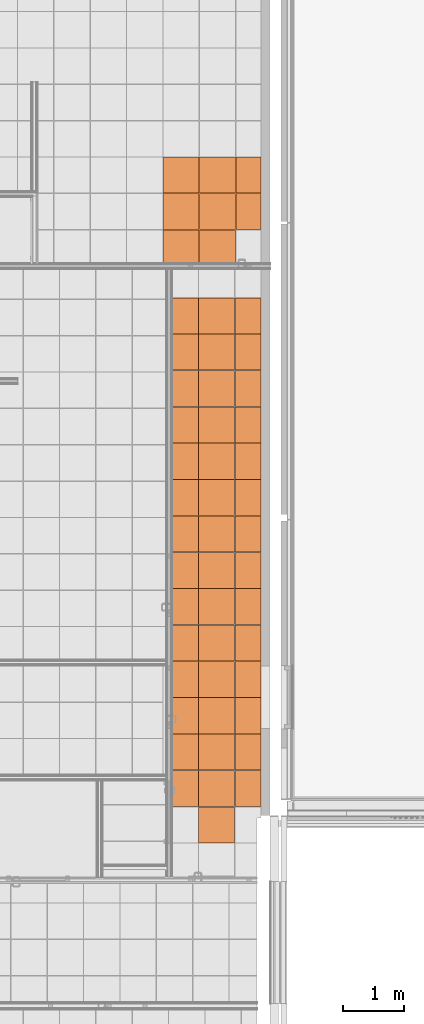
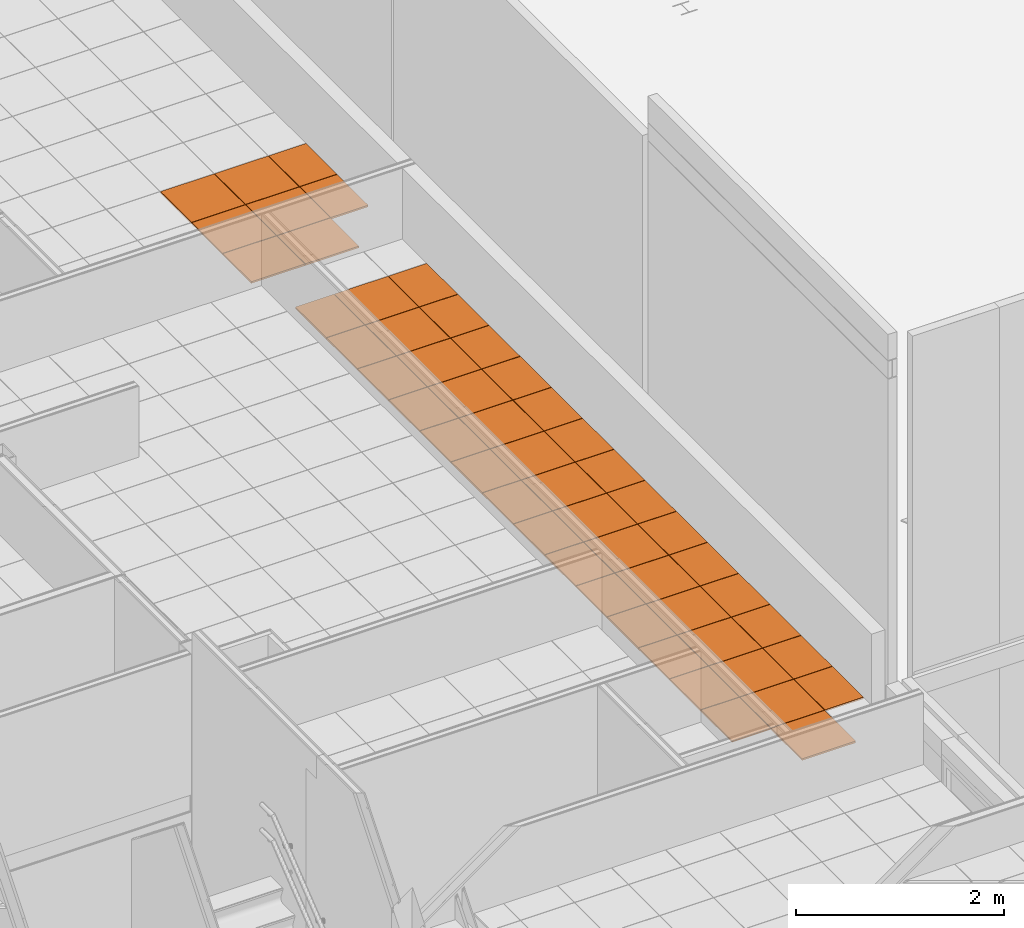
# One storey, part 296 of 338: 51 proxies, 2 elements without a shape of their own.
"""IFC2X3 building model written with IfcOpenShell, lengths in millimetres."""

import ifcopenshell
import ifcopenshell.guid

model = None  # the IFC model being written
_history = None  # IfcOwnerHistory: only IFC2X3 demands one
_inside = {}  # id of a spatial element -> (the spatial element, [elements in it])
_under = {}  # id of a project, library or spatial element -> (it, [spatial elements below it])
_declared = {}  # id of a project -> (the project, [libraries it declares])
_typed = {}  # id of a type object -> (the type object, [elements of that type])
_made_of = {}  # id of a material, layer set ... -> (it, [elements and type objects made of it])


def new_model(schema):
    """Start an empty IFC model of exactly this schema.

    Asked for "IFC4X3", IfcOpenShell would pick the latest addendum, in which some entities
    have other attributes; the version numbers below select the first issue.
    IFC2X3 requires an IfcOwnerHistory on every rooted entity: one is made here for all.
    """
    global model, _history
    if schema == "IFC4X3":
        model = ifcopenshell.file(schema_version=(4, 3, 0, 0))
    else:
        model = ifcopenshell.file(schema=schema)
    _inside.clear()
    _under.clear()
    _declared.clear()
    _typed.clear()
    _made_of.clear()
    _history = None
    if model.schema == "IFC2X3":
        org = make("IfcOrganization", Name="unknown")
        user = make(
            "IfcPersonAndOrganization",
            ThePerson=make("IfcPerson", FamilyName="unknown"),
            TheOrganization=org,
        )
        app = make(
            "IfcApplication",
            ApplicationDeveloper=org,
            Version="unknown",
            ApplicationFullName="unknown",
            ApplicationIdentifier="unknown",
        )
        _history = make(
            "IfcOwnerHistory",
            OwningUser=user,
            OwningApplication=app,
            ChangeAction="ADDED",
            CreationDate=0,
        )
    return model


def make(cls, **values):
    """One entity of the class cls with the attributes given. An attribute that is None is left unset."""
    return model.create_entity(
        cls, **{name: value for name, value in values.items() if value is not None}
    )


def entity(cls, *values):
    """Any entity or typed value of the class cls, its attributes in the order of the schema. None: left unset."""
    e = model.create_entity(cls)
    for i, value in enumerate(values):
        if value is not None:
            e[i] = value
    return e


def rooted(cls, **values):
    """An entity with a GlobalId (a new one), such as an element, a storey or a relation."""
    return make(cls, GlobalId=ifcopenshell.guid.new(), OwnerHistory=_history, **values)


def si_unit(unit_type, name, prefix=None):
    """IfcSIUnit, for example si_unit("LENGTHUNIT", "METRE", prefix="MILLI")."""
    return make("IfcSIUnit", UnitType=unit_type, Prefix=prefix, Name=name)


def converted_unit(unit_type, name, factor, base, dimensions=None, offset=None):
    """IfcConversionBasedUnit, such as the inch: factor (a typed value) times the base unit."""
    return make(
        "IfcConversionBasedUnit"
        if offset is None
        else "IfcConversionBasedUnitWithOffset",
        ConversionOffset=offset,
        Dimensions=None
        if dimensions is None
        else entity("IfcDimensionalExponents", *dimensions),
        UnitType=unit_type,
        Name=name,
        ConversionFactor=make(
            "IfcMeasureWithUnit", ValueComponent=factor, UnitComponent=base
        ),
    )


def derived_unit(unit_type, elements):
    """IfcDerivedUnit: a product of units, each with its exponent."""
    return make(
        "IfcDerivedUnit",
        Elements=[
            make("IfcDerivedUnitElement", Unit=unit, Exponent=power)
            for unit, power in elements
        ],
        UnitType=unit_type,
    )


def money_unit(currency):
    """IfcMonetaryUnit."""
    return make("IfcMonetaryUnit", Currency=currency)


def assignment(units):
    """IfcUnitAssignment: the units of a project."""
    return None if units is None else make("IfcUnitAssignment", Units=units)


def point(xyz):
    """IfcCartesianPoint."""
    return None if xyz is None else make("IfcCartesianPoint", Coordinates=xyz)


def direction(xyz):
    """IfcDirection."""
    return None if xyz is None else make("IfcDirection", DirectionRatios=xyz)


def frame(location, z_axis=None, x_axis=None):
    """IfcAxis2Placement3D, a coordinate frame: its origin and axes. An axis left out is left unset."""
    return make(
        "IfcAxis2Placement3D",
        Location=point(location),
        Axis=direction(z_axis),
        RefDirection=direction(x_axis),
    )


def origin_with_axes():
    """The frame at (0, 0, 0) with the z axis (0, 0, 1) and the x axis (1, 0, 0) written out."""
    return frame((0.0, 0.0, 0.0), z_axis=(0.0, 0.0, 1.0), x_axis=(1.0, 0.0, 0.0))


def place(relative_to, where):
    """IfcLocalPlacement: puts the frame where relative to a parent placement (None: the world)."""
    return make(
        "IfcLocalPlacement", PlacementRelTo=relative_to, RelativePlacement=where
    )


def context(
    kind, dimensions, precision=None, world=None, true_north=None, identifier=None
):
    """IfcGeometricRepresentationContext, for example the 3D "Model" context."""
    return make(
        "IfcGeometricRepresentationContext",
        ContextIdentifier=identifier,
        ContextType=kind,
        CoordinateSpaceDimension=dimensions,
        Precision=precision,
        WorldCoordinateSystem=world,
        TrueNorth=true_north,
    )


def subcontext(parent, identifier, kind, view, scale=None):
    """IfcGeometricRepresentationSubContext, for example "Body" below "Model"."""
    return make(
        "IfcGeometricRepresentationSubContext",
        ContextIdentifier=identifier,
        ContextType=kind,
        ParentContext=parent,
        TargetScale=scale,
        TargetView=view,
    )


def project(units=None, contexts=None):
    """IfcProject with its units and contexts."""
    return rooted(
        "IfcProject",
        Name="project",
        RepresentationContexts=contexts,
        UnitsInContext=assignment(units),
    )


def spatial(cls, under=None, at=None, **own):
    """A site, building, storey or space (cls), placed at a placement, below another one or the project."""
    s = rooted(cls, ObjectPlacement=at, **own)
    if under is not None:
        _under.setdefault(under.id(), (under, []))[1].append(s)
    return s


def faces_of(points, faces, orient=None, outer=None):
    """IfcFace entities. A face is a list of loops; a loop is a list of indices into points, from 0.

    orient and outer hold one flag for each loop. By default every Orientation is true, the
    first loop of a face is its IfcFaceOuterBound and the others are IfcFaceBound.
    """
    made = []
    for i, loops in enumerate(faces):
        bounds = []
        for j, loop in enumerate(loops):
            is_outer = j == 0 if outer is None else outer[i][j]
            bounds.append(
                make(
                    "IfcFaceOuterBound" if is_outer else "IfcFaceBound",
                    Bound=make("IfcPolyLoop", Polygon=[points[k] for k in loop]),
                    Orientation=True if orient is None else orient[i][j],
                )
            )
        made.append(make("IfcFace", Bounds=bounds))
    return made


def faceted_brep(points, faces, orient=None, outer=None, voids=None):
    """IfcFacetedBrep: a solid bounded by flat faces; with voids (closed shells), ...WithVoids."""
    shared = [point(p) for p in points]
    hull = make("IfcClosedShell", CfsFaces=faces_of(shared, faces, orient, outer))
    if voids is None:
        return make("IfcFacetedBrep", Outer=hull)
    return make(
        "IfcFacetedBrepWithVoids",
        Outer=hull,
        Voids=[
            make(cls, CfsFaces=faces_of(shared, fs, o, b)) for cls, fs, o, b in voids
        ],
    )


def shape(context_of_items, identifier, shape_type, items):
    """IfcShapeRepresentation: the items that make up one representation, for example the "Body"."""
    return make(
        "IfcShapeRepresentation",
        ContextOfItems=context_of_items,
        RepresentationIdentifier=identifier,
        RepresentationType=shape_type,
        Items=items,
    )


def source(mapping_origin, context_of_items, identifier, shape_type, items):
    """IfcRepresentationMap: a shape defined once, which mapped items show again and again."""
    return make(
        "IfcRepresentationMap",
        MappingOrigin=mapping_origin,
        MappedRepresentation=shape(context_of_items, identifier, shape_type, items),
    )


def transform(
    local_origin,
    x_axis=None,
    y_axis=None,
    z_axis=None,
    scale=None,
    scale2=None,
    scale3=None,
    uniform=True,
):
    """IfcCartesianTransformationOperator3D, or its non-uniform kind. x_axis, y_axis, z_axis: its Axis1, 2, 3."""
    if uniform:
        return make(
            "IfcCartesianTransformationOperator3D",
            Axis1=direction(x_axis),
            Axis2=direction(y_axis),
            LocalOrigin=point(local_origin),
            Scale=scale,
            Axis3=direction(z_axis),
        )
    return make(
        "IfcCartesianTransformationOperator3DnonUniform",
        Axis1=direction(x_axis),
        Axis2=direction(y_axis),
        LocalOrigin=point(local_origin),
        Scale=scale,
        Axis3=direction(z_axis),
        Scale2=scale2,
        Scale3=scale3,
    )


def mapped(mapping_source, mapping_target):
    """IfcMappedItem: shows the shape of a source again, moved by a transform."""
    return make(
        "IfcMappedItem", MappingSource=mapping_source, MappingTarget=mapping_target
    )


def material(Name=None, Category=None):
    """IfcMaterial."""
    return make("IfcMaterial", Name=Name, Category=Category)


def made_of(thing, what):
    """Note that an element or type object is made of a material, layer set ...; save() writes the relation."""
    if what is not None:
        _made_of.setdefault(what.id(), (what, []))[1].append(thing)
    return thing


def type_object(cls, material=None, **own):
    """A type object (cls), such as IfcWallType, which elements share."""
    return made_of(rooted(cls, **own), material)


def type_shapes(of_type, sources):
    """Give a type object the sources (RepresentationMaps) that its elements show as mapped items."""
    of_type.RepresentationMaps = sources


def element(
    cls,
    number,
    at=None,
    inside=None,
    cuts=None,
    type_object=None,
    material=None,
    context=None,
    identifier="Body",
    shape_type=None,
    held_by="IfcProductDefinitionShape",
    body=None,
    shapes=None,
    **own,
):
    """One element of the class cls, such as IfcWall. Its Tag is "e" and its number.

    at: its placement. inside: the storey or other place that contains it. cuts: it is an
    opening in that element (IfcRelVoidsElement). A single representation is given by context,
    identifier, shape_type and body (its items); several are given by shapes. held_by: the class
    of the entity that holds the representations. save() writes the other relations.
    """
    e = rooted(cls, Tag="e%d" % number, ObjectPlacement=at, **own)
    if body is not None:
        shapes = [shape(context, identifier, shape_type, body)]
    if shapes is not None:
        e.Representation = make(held_by, Representations=shapes)
    if inside is not None:
        _inside.setdefault(inside.id(), (inside, []))[1].append(e)
    if cuts is not None:
        rooted(
            "IfcRelVoidsElement", RelatingBuildingElement=cuts, RelatedOpeningElement=e
        )
    if type_object is not None:
        _typed.setdefault(type_object.id(), (type_object, []))[1].append(e)
    return made_of(e, material)


def aggregate(whole, parts):
    """IfcRelAggregates: a whole, such as a stair, and the parts it consists of."""
    return rooted("IfcRelAggregates", RelatingObject=whole, RelatedObjects=parts)


def save(model, path):
    """Write the relations noted so far, then the file.

    IfcRelAggregates (storeys below a building ...), IfcRelContainedInSpatialStructure (elements
    in a storey), IfcRelDefinesByType, IfcRelAssociatesMaterial and IfcRelDeclares: one each for
    every whole, place, type object, material and project.
    """
    for whole, parts in _under.values():
        aggregate(whole, parts)
    for where, things in _inside.values():
        rooted(
            "IfcRelContainedInSpatialStructure",
            RelatedElements=things,
            RelatingStructure=where,
        )
    for kind, things in _typed.values():
        rooted("IfcRelDefinesByType", RelatedObjects=things, RelatingType=kind)
    for what, things in _made_of.values():
        rooted("IfcRelAssociatesMaterial", RelatedObjects=things, RelatingMaterial=what)
    for by, libraries in _declared.values():
        rooted("IfcRelDeclares", RelatingContext=by, RelatedDefinitions=libraries)
    model.write(path)


model = new_model("IFC2X3")

# Units and contexts
model_context = context("Model", 3, precision=0.01, world=origin_with_axes(), true_north=direction((0.0, 1.0)))
plan_context = context("Plan", 3, precision=0.01, world=origin_with_axes(), true_north=direction((0.0, 1.0)))
body_context = subcontext(model_context, "Body", "Model", "MODEL_VIEW")
ifc_project = project(units=[si_unit("LENGTHUNIT", "METRE", prefix="MILLI"), si_unit("AREAUNIT", "SQUARE_METRE"), si_unit("VOLUMEUNIT", "CUBIC_METRE"), converted_unit("PLANEANGLEUNIT", "DEGREE", entity("IfcPlaneAngleMeasure", 0.0174532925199), si_unit("PLANEANGLEUNIT", "RADIAN"), dimensions=[0, 0, 0, 0, 0, 0, 0]), money_unit("EUR"), converted_unit("TIMEUNIT", "Year", entity("IfcTimeMeasure", 31556926.0), si_unit("TIMEUNIT", "SECOND"), dimensions=[0, 0, 1, 0, 0, 0, 0]), si_unit("MASSUNIT", "GRAM", prefix="KILO"), si_unit("THERMODYNAMICTEMPERATUREUNIT", "DEGREE_CELSIUS"), si_unit("LUMINOUSINTENSITYUNIT", "LUMEN"), si_unit("ENERGYUNIT", "JOULE", prefix="MEGA"), derived_unit("THERMALCONDUCTANCEUNIT", [(si_unit("POWERUNIT", "WATT"), 1), (si_unit("LENGTHUNIT", "METRE"), -1), (si_unit("THERMODYNAMICTEMPERATUREUNIT", "KELVIN"), -1)]), derived_unit("SPECIFICHEATCAPACITYUNIT", [(si_unit("ENERGYUNIT", "JOULE"), 1), (si_unit("MASSUNIT", "GRAM", prefix="KILO"), -1), (si_unit("THERMODYNAMICTEMPERATUREUNIT", "KELVIN"), -1)]), derived_unit("MASSDENSITYUNIT", [(si_unit("MASSUNIT", "GRAM", prefix="KILO"), 1), (si_unit("VOLUMEUNIT", "CUBIC_METRE"), -1)])], contexts=[model_context, plan_context])

# Site, building, storey
site_placement = place(None, origin_with_axes())
site = spatial("IfcSite", under=ifc_project, at=site_placement, Name="Fortuinstraat Woensdrecht", CompositionType="ELEMENT")
building_placement = place(site_placement, origin_with_axes())
building = spatial("IfcBuilding", under=site, at=building_placement, Name="IKC Fortuna", CompositionType="ELEMENT")
storey_placement = place(building_placement, origin_with_axes())
storey = spatial("IfcBuildingStorey", under=building, at=storey_placement, Name="00 begane grond", CompositionType="ELEMENT", Elevation=0.0)

# Covering, proxies
covering_type = type_object("IfcCoveringType", Name="Curtain Wall Type", PredefinedType="CEILING")
covering_1_placement = place(storey_placement, frame((33951.5455551, 20180.4597436, 2810.0), z_axis=(0.0, 0.0, 1.0), x_axis=(1.0, 0.0, 0.0)))
covering_1 = element("IfcCovering", 1, at=covering_1_placement, inside=storey, type_object=covering_type, Name="45_Plafondafwerking_P02", PredefinedType="CEILING")
ifc_material = material(Name="Gipsplaat")
building_element_proxy_type_1 = type_object("IfcBuildingElementProxyType", Name="Distinct Panel 600 x 600 x 20", PredefinedType="NOTDEFINED")
shared_shape_1 = source(origin_with_axes(), body_context, "Body", "Brep", [
    faceted_brep([(-2.49999999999, 2.5, -10.0), (-2.49999999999, 2.5, 10.0), (-597.5, 2.49999999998, 10.0), (-597.5, 2.49999999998, -10.0), (-2.50000000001, 597.5, -10.0), (-2.50000000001, 597.5, 10.0), (-597.5, 597.5, 10.0), (-597.5, 597.5, -10.0)], [[[0, 1, 2, 3]], [[4, 5, 1, 0]], [[1, 5, 6, 2]], [[3, 2, 6, 7]], [[0, 3, 7, 4]], [[7, 6, 5, 4]]]),
])
type_shapes(building_element_proxy_type_1, [shared_shape_1])
proxy_1_placement = place(covering_1_placement, frame((2.20268248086e-10, 8980.66312626, 0.0), z_axis=(0.0, 0.0, 1.0), x_axis=(1.0, 0.0, 0.0)))
proxy_1 = element("IfcBuildingElementProxy", 2, at=proxy_1_placement, type_object=building_element_proxy_type_1, material=ifc_material, Name="__Panel-D", context=body_context, shape_type="MappedRepresentation", body=[
    mapped(shared_shape_1, transform((-300.0, 300.0, 0.0), x_axis=(-1.0, 0.0, 0.0), y_axis=(0.0, -1.0, 0.0), z_axis=(0.0, 0.0, 1.0))),
])
proxy_2_placement = place(covering_1_placement, frame((2.0605739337e-10, 8380.66312626, 0.0), z_axis=(0.0, 0.0, 1.0), x_axis=(1.0, 0.0, 0.0)))
proxy_2 = element("IfcBuildingElementProxy", 3, at=proxy_2_placement, type_object=building_element_proxy_type_1, material=ifc_material, Name="__Panel-D", context=body_context, shape_type="MappedRepresentation", body=[
    mapped(shared_shape_1, transform((-300.0, 300.0, 0.0), x_axis=(-1.0, 0.0, 0.0), y_axis=(0.0, -1.0, 0.0), z_axis=(0.0, 0.0, 1.0))),
])
proxy_3_placement = place(covering_1_placement, frame((1.91846538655e-10, 7780.66312626, 0.0), z_axis=(0.0, 0.0, 1.0), x_axis=(1.0, 0.0, 0.0)))
proxy_3 = element("IfcBuildingElementProxy", 4, at=proxy_3_placement, type_object=building_element_proxy_type_1, material=ifc_material, Name="__Panel-D", context=body_context, shape_type="MappedRepresentation", body=[
    mapped(shared_shape_1, transform((-300.0, 300.0, 0.0), x_axis=(-1.0, 0.0, 0.0), y_axis=(0.0, -1.0, 0.0), z_axis=(0.0, 0.0, 1.0))),
])
proxy_4_placement = place(covering_1_placement, frame((1.7763568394e-10, 7180.66312626, 0.0), z_axis=(0.0, 0.0, 1.0), x_axis=(1.0, 0.0, 0.0)))
proxy_4 = element("IfcBuildingElementProxy", 5, at=proxy_4_placement, type_object=building_element_proxy_type_1, material=ifc_material, Name="__Panel-D", context=body_context, shape_type="MappedRepresentation", body=[
    mapped(shared_shape_1, transform((-300.0, 300.0, 0.0), x_axis=(-1.0, 0.0, 0.0), y_axis=(0.0, -1.0, 0.0), z_axis=(0.0, 0.0, 1.0))),
])
proxy_5_placement = place(covering_1_placement, frame((1.63424829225e-10, 6580.66312626, 0.0), z_axis=(0.0, 0.0, 1.0), x_axis=(1.0, 0.0, 0.0)))
proxy_5 = element("IfcBuildingElementProxy", 6, at=proxy_5_placement, type_object=building_element_proxy_type_1, material=ifc_material, Name="__Panel-D", context=body_context, shape_type="MappedRepresentation", body=[
    mapped(shared_shape_1, transform((-300.0, 300.0, 0.0), x_axis=(-1.0, 0.0, 0.0), y_axis=(0.0, -1.0, 0.0), z_axis=(0.0, 0.0, 1.0))),
])
proxy_6_placement = place(covering_1_placement, frame((1.4921397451e-10, 5980.66312626, 0.0), z_axis=(0.0, 0.0, 1.0), x_axis=(1.0, 0.0, 0.0)))
proxy_6 = element("IfcBuildingElementProxy", 7, at=proxy_6_placement, type_object=building_element_proxy_type_1, material=ifc_material, Name="__Panel-D", context=body_context, shape_type="MappedRepresentation", body=[
    mapped(shared_shape_1, transform((-300.0, 300.0, 0.0), x_axis=(-1.0, 0.0, 0.0), y_axis=(0.0, -1.0, 0.0), z_axis=(0.0, 0.0, 1.0))),
])
proxy_7_placement = place(covering_1_placement, frame((1.35003119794e-10, 5380.66312626, 0.0), z_axis=(0.0, 0.0, 1.0), x_axis=(1.0, 0.0, 0.0)))
proxy_7 = element("IfcBuildingElementProxy", 8, at=proxy_7_placement, type_object=building_element_proxy_type_1, material=ifc_material, Name="__Panel-D", context=body_context, shape_type="MappedRepresentation", body=[
    mapped(shared_shape_1, transform((-300.0, 300.0, 0.0), x_axis=(-1.0, 0.0, 0.0), y_axis=(0.0, -1.0, 0.0), z_axis=(0.0, 0.0, 1.0))),
])
proxy_8_placement = place(covering_1_placement, frame((1.20792265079e-10, 4780.66312626, 0.0), z_axis=(0.0, 0.0, 1.0), x_axis=(1.0, 0.0, 0.0)))
proxy_8 = element("IfcBuildingElementProxy", 9, at=proxy_8_placement, type_object=building_element_proxy_type_1, material=ifc_material, Name="__Panel-D", context=body_context, shape_type="MappedRepresentation", body=[
    mapped(shared_shape_1, transform((-300.0, 300.0, 0.0), x_axis=(-1.0, 0.0, 0.0), y_axis=(0.0, -1.0, 0.0), z_axis=(0.0, 0.0, 1.0))),
])
proxy_9_placement = place(covering_1_placement, frame((1.06581410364e-10, 4180.66312626, 0.0), z_axis=(0.0, 0.0, 1.0), x_axis=(1.0, 0.0, 0.0)))
proxy_9 = element("IfcBuildingElementProxy", 10, at=proxy_9_placement, type_object=building_element_proxy_type_1, material=ifc_material, Name="__Panel-D", context=body_context, shape_type="MappedRepresentation", body=[
    mapped(shared_shape_1, transform((-300.0, 300.0, 0.0), x_axis=(-1.0, 0.0, 0.0), y_axis=(0.0, -1.0, 0.0), z_axis=(0.0, 0.0, 1.0))),
])
proxy_10_placement = place(covering_1_placement, frame((0.0, 3580.66312626, 0.0), z_axis=(0.0, 0.0, 1.0), x_axis=(1.0, 0.0, 0.0)))
proxy_10 = element("IfcBuildingElementProxy", 11, at=proxy_10_placement, type_object=building_element_proxy_type_1, material=ifc_material, Name="__Panel-D", context=body_context, shape_type="MappedRepresentation", body=[
    mapped(shared_shape_1, transform((-300.0, 300.0, 0.0), x_axis=(-1.0, 0.0, 0.0), y_axis=(0.0, -1.0, 0.0), z_axis=(0.0, 0.0, 1.0))),
])
proxy_11_placement = place(covering_1_placement, frame((0.0, 2980.66312626, 0.0), z_axis=(0.0, 0.0, 1.0), x_axis=(1.0, 0.0, 0.0)))
proxy_11 = element("IfcBuildingElementProxy", 12, at=proxy_11_placement, type_object=building_element_proxy_type_1, material=ifc_material, Name="__Panel-D", context=body_context, shape_type="MappedRepresentation", body=[
    mapped(shared_shape_1, transform((-300.0, 300.0, 0.0), x_axis=(-1.0, 0.0, 0.0), y_axis=(0.0, -1.0, 0.0), z_axis=(0.0, 0.0, 1.0))),
])
proxy_12_placement = place(covering_1_placement, frame((0.0, 2380.66312626, 0.0), z_axis=(0.0, 0.0, 1.0), x_axis=(1.0, 0.0, 0.0)))
proxy_12 = element("IfcBuildingElementProxy", 13, at=proxy_12_placement, type_object=building_element_proxy_type_1, material=ifc_material, Name="__Panel-D", context=body_context, shape_type="MappedRepresentation", body=[
    mapped(shared_shape_1, transform((-300.0, 300.0, 0.0), x_axis=(-1.0, 0.0, 0.0), y_axis=(0.0, -1.0, 0.0), z_axis=(0.0, 0.0, 1.0))),
])
proxy_13_placement = place(covering_1_placement, frame((0.0, 1780.66312626, 0.0), z_axis=(0.0, 0.0, 1.0), x_axis=(1.0, 0.0, 0.0)))
proxy_13 = element("IfcBuildingElementProxy", 14, at=proxy_13_placement, type_object=building_element_proxy_type_1, material=ifc_material, Name="__Panel-D", context=body_context, shape_type="MappedRepresentation", body=[
    mapped(shared_shape_1, transform((-300.0, 300.0, 0.0), x_axis=(-1.0, 0.0, 0.0), y_axis=(0.0, -1.0, 0.0), z_axis=(0.0, 0.0, 1.0))),
])
proxy_14_placement = place(covering_1_placement, frame((0.0, 1180.66312626, 0.0), z_axis=(0.0, 0.0, 1.0), x_axis=(1.0, 0.0, 0.0)))
proxy_14 = element("IfcBuildingElementProxy", 15, at=proxy_14_placement, type_object=building_element_proxy_type_1, material=ifc_material, Name="__Panel-D", context=body_context, shape_type="MappedRepresentation", body=[
    mapped(shared_shape_1, transform((-300.0, 300.0, 0.0), x_axis=(-1.0, 0.0, 0.0), y_axis=(0.0, -1.0, 0.0), z_axis=(0.0, 0.0, 1.0))),
])
proxy_15_placement = place(covering_1_placement, frame((0.0, 580.66312626, 0.0), z_axis=(0.0, 0.0, 1.0), x_axis=(1.0, 0.0, 0.0)))
proxy_15 = element("IfcBuildingElementProxy", 16, at=proxy_15_placement, type_object=building_element_proxy_type_1, material=ifc_material, Name="__Panel-D", context=body_context, shape_type="MappedRepresentation", body=[
    mapped(shared_shape_1, transform((-300.0, 300.0, 0.0), x_axis=(-1.0, 0.0, 0.0), y_axis=(0.0, -1.0, 0.0), z_axis=(0.0, 0.0, 1.0))),
])

covering_2_placement = place(storey_placement, frame((34473.6590305, 30882.3889696, 2810.0), z_axis=(0.0, 0.0, 1.0), x_axis=(1.0, 0.0, 0.0)))
covering_2 = element("IfcCovering", 17, at=covering_2_placement, inside=storey, type_object=covering_type, Name="45_Plafondafwerking_P02 v", PredefinedType="CEILING")
proxy_16_placement = place(covering_2_placement, frame((-509.768002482, 0.0, 1.63868918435e-10), z_axis=(0.0, 0.0, 1.0), x_axis=(1.0, 0.0, 0.0)))
proxy_16 = element("IfcBuildingElementProxy", 18, at=proxy_16_placement, type_object=building_element_proxy_type_1, material=ifc_material, Name="__Panel-D", context=body_context, shape_type="MappedRepresentation", body=[
    mapped(shared_shape_1, transform((-300.0, 300.0, 0.0), x_axis=(-1.0, 0.0, 0.0), y_axis=(0.0, -1.0, 0.0), z_axis=(0.0, 0.0, 1.0))),
])
proxy_17_placement = place(covering_2_placement, frame((-509.768002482, 600.0, 1.63868918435e-10), z_axis=(0.0, 0.0, 1.0), x_axis=(1.0, 0.0, 0.0)))
proxy_17 = element("IfcBuildingElementProxy", 19, at=proxy_17_placement, type_object=building_element_proxy_type_1, material=ifc_material, Name="__Panel-D", context=body_context, shape_type="MappedRepresentation", body=[
    mapped(shared_shape_1, transform((-300.0, 300.0, 0.0), x_axis=(-1.0, 0.0, 0.0), y_axis=(0.0, -1.0, 0.0), z_axis=(0.0, 0.0, 1.0))),
])
proxy_18_placement = place(covering_2_placement, frame((-1109.76800248, 0.0, 1.43884903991e-10), z_axis=(0.0, 0.0, 1.0), x_axis=(1.0, 0.0, 0.0)))
proxy_18 = element("IfcBuildingElementProxy", 20, at=proxy_18_placement, type_object=building_element_proxy_type_1, material=ifc_material, Name="__Panel-D", context=body_context, shape_type="MappedRepresentation", body=[
    mapped(shared_shape_1, transform((-300.0, 300.0, 0.0), x_axis=(-1.0, 0.0, 0.0), y_axis=(0.0, -1.0, 0.0), z_axis=(0.0, 0.0, 1.0))),
])
proxy_19_placement = place(covering_2_placement, frame((-1109.76800248, 600.0, 1.43884903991e-10), z_axis=(0.0, 0.0, 1.0), x_axis=(1.0, 0.0, 0.0)))
proxy_19 = element("IfcBuildingElementProxy", 21, at=proxy_19_placement, type_object=building_element_proxy_type_1, material=ifc_material, Name="__Panel-D", context=body_context, shape_type="MappedRepresentation", body=[
    mapped(shared_shape_1, transform((-300.0, 300.0, 0.0), x_axis=(-1.0, 0.0, 0.0), y_axis=(0.0, -1.0, 0.0), z_axis=(0.0, 0.0, 1.0))),
])

# Proxy
building_element_proxy_type_2 = type_object("IfcBuildingElementProxyType", Name="Distinct Panel 432 x 600 x 20", PredefinedType="NOTDEFINED")
shared_shape_2 = source(origin_with_axes(), body_context, "Body", "Brep", [
    faceted_brep([(-2.49999720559, 2.5, -10.0), (-2.49999720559, 2.5, 10.0), (-429.381506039, 2.49999999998, 10.0), (-429.381506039, 2.49999999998, -10.0), (-2.49999720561, 597.5, -10.0), (-2.49999720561, 597.5, 10.0), (-429.381506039, 597.5, 10.0), (-429.381506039, 597.5, -10.0)], [[[0, 1, 2, 3]], [[4, 5, 1, 0]], [[1, 5, 6, 2]], [[3, 2, 6, 7]], [[0, 3, 7, 4]], [[7, 6, 5, 4]]]),
])
proxy_20_placement = place(covering_1_placement, frame((515.94075302, 8380.66312626, 0.0), z_axis=(0.0, 0.0, 1.0), x_axis=(1.0, 0.0, 0.0)))
proxy_20 = element("IfcBuildingElementProxy", 22, at=proxy_20_placement, type_object=building_element_proxy_type_2, material=ifc_material, Name="__Panel-D", context=body_context, shape_type="MappedRepresentation", body=[
    mapped(shared_shape_2, transform((-215.94075302, 300.0, 0.0), x_axis=(-1.0, 0.0, 0.0), y_axis=(0.0, -1.0, 0.0), z_axis=(0.0, 0.0, 1.0))),
])

proxy_21_placement = place(covering_1_placement, frame((515.94075302, 1180.66312626, 0.0), z_axis=(0.0, 0.0, 1.0), x_axis=(1.0, 0.0, 0.0)))
proxy_21 = element("IfcBuildingElementProxy", 23, at=proxy_21_placement, type_object=building_element_proxy_type_2, material=ifc_material, Name="__Panel-D", context=body_context, shape_type="MappedRepresentation", body=[
    mapped(shared_shape_2, transform((-215.94075302, 300.0, 0.0), x_axis=(-1.0, 0.0, 0.0), y_axis=(0.0, -1.0, 0.0), z_axis=(0.0, 0.0, 1.0))),
])

proxy_22_placement = place(covering_1_placement, frame((515.94075302, 6580.66312626, 0.0), z_axis=(0.0, 0.0, 1.0), x_axis=(1.0, 0.0, 0.0)))
proxy_22 = element("IfcBuildingElementProxy", 24, at=proxy_22_placement, type_object=building_element_proxy_type_2, material=ifc_material, Name="__Panel-D", context=body_context, shape_type="MappedRepresentation", body=[
    mapped(shared_shape_2, transform((-215.94075302, 300.0, 0.0), x_axis=(-1.0, 0.0, 0.0), y_axis=(0.0, -1.0, 0.0), z_axis=(0.0, 0.0, 1.0))),
])

proxy_23_placement = place(covering_1_placement, frame((515.94075302, 1780.66312626, 0.0), z_axis=(0.0, 0.0, 1.0), x_axis=(1.0, 0.0, 0.0)))
proxy_23 = element("IfcBuildingElementProxy", 25, at=proxy_23_placement, type_object=building_element_proxy_type_2, material=ifc_material, Name="__Panel-D", context=body_context, shape_type="MappedRepresentation", body=[
    mapped(shared_shape_2, transform((-215.94075302, 300.0, 0.0), x_axis=(-1.0, 0.0, 0.0), y_axis=(0.0, -1.0, 0.0), z_axis=(0.0, 0.0, 1.0))),
])

proxy_24_placement = place(covering_1_placement, frame((515.94075302, 8980.66312626, 0.0), z_axis=(0.0, 0.0, 1.0), x_axis=(1.0, 0.0, 0.0)))
proxy_24 = element("IfcBuildingElementProxy", 26, at=proxy_24_placement, type_object=building_element_proxy_type_2, material=ifc_material, Name="__Panel-D", context=body_context, shape_type="MappedRepresentation", body=[
    mapped(shared_shape_2, transform((-215.94075302, 300.0, 0.0), x_axis=(-1.0, 0.0, 0.0), y_axis=(0.0, -1.0, 0.0), z_axis=(0.0, 0.0, 1.0))),
])

proxy_25_placement = place(covering_1_placement, frame((515.94075302, 7180.66312626, 0.0), z_axis=(0.0, 0.0, 1.0), x_axis=(1.0, 0.0, 0.0)))
proxy_25 = element("IfcBuildingElementProxy", 27, at=proxy_25_placement, type_object=building_element_proxy_type_2, material=ifc_material, Name="__Panel-D", context=body_context, shape_type="MappedRepresentation", body=[
    mapped(shared_shape_2, transform((-215.94075302, 300.0, 0.0), x_axis=(-1.0, 0.0, 0.0), y_axis=(0.0, -1.0, 0.0), z_axis=(0.0, 0.0, 1.0))),
])

proxy_26_placement = place(covering_1_placement, frame((515.94075302, 2380.66312626, 0.0), z_axis=(0.0, 0.0, 1.0), x_axis=(1.0, 0.0, 0.0)))
proxy_26 = element("IfcBuildingElementProxy", 28, at=proxy_26_placement, type_object=building_element_proxy_type_2, material=ifc_material, Name="__Panel-D", context=body_context, shape_type="MappedRepresentation", body=[
    mapped(shared_shape_2, transform((-215.94075302, 300.0, 0.0), x_axis=(-1.0, 0.0, 0.0), y_axis=(0.0, -1.0, 0.0), z_axis=(0.0, 0.0, 1.0))),
])

proxy_27_placement = place(covering_1_placement, frame((515.94075302, 5980.66312626, 0.0), z_axis=(0.0, 0.0, 1.0), x_axis=(1.0, 0.0, 0.0)))
proxy_27 = element("IfcBuildingElementProxy", 29, at=proxy_27_placement, type_object=building_element_proxy_type_2, material=ifc_material, Name="__Panel-D", context=body_context, shape_type="MappedRepresentation", body=[
    mapped(shared_shape_2, transform((-215.94075302, 300.0, 0.0), x_axis=(-1.0, 0.0, 0.0), y_axis=(0.0, -1.0, 0.0), z_axis=(0.0, 0.0, 1.0))),
])

proxy_28_placement = place(covering_1_placement, frame((515.94075302, 5380.66312626, 0.0), z_axis=(0.0, 0.0, 1.0), x_axis=(1.0, 0.0, 0.0)))
proxy_28 = element("IfcBuildingElementProxy", 30, at=proxy_28_placement, type_object=building_element_proxy_type_2, material=ifc_material, Name="__Panel-D", context=body_context, shape_type="MappedRepresentation", body=[
    mapped(shared_shape_2, transform((-215.94075302, 300.0, 0.0), x_axis=(-1.0, 0.0, 0.0), y_axis=(0.0, -1.0, 0.0), z_axis=(0.0, 0.0, 1.0))),
])

proxy_29_placement = place(covering_1_placement, frame((515.94075302, 4780.66312626, 0.0), z_axis=(0.0, 0.0, 1.0), x_axis=(1.0, 0.0, 0.0)))
proxy_29 = element("IfcBuildingElementProxy", 31, at=proxy_29_placement, type_object=building_element_proxy_type_2, material=ifc_material, Name="__Panel-D", context=body_context, shape_type="MappedRepresentation", body=[
    mapped(shared_shape_2, transform((-215.94075302, 300.0, 0.0), x_axis=(-1.0, 0.0, 0.0), y_axis=(0.0, -1.0, 0.0), z_axis=(0.0, 0.0, 1.0))),
])

proxy_30_placement = place(covering_1_placement, frame((515.94075302, 7780.66312626, 0.0), z_axis=(0.0, 0.0, 1.0), x_axis=(1.0, 0.0, 0.0)))
proxy_30 = element("IfcBuildingElementProxy", 32, at=proxy_30_placement, type_object=building_element_proxy_type_2, material=ifc_material, Name="__Panel-D", context=body_context, shape_type="MappedRepresentation", body=[
    mapped(shared_shape_2, transform((-215.94075302, 300.0, 0.0), x_axis=(-1.0, 0.0, 0.0), y_axis=(0.0, -1.0, 0.0), z_axis=(0.0, 0.0, 1.0))),
])

proxy_31_placement = place(covering_1_placement, frame((515.94075302, 2980.66312626, 0.0), z_axis=(0.0, 0.0, 1.0), x_axis=(1.0, 0.0, 0.0)))
proxy_31 = element("IfcBuildingElementProxy", 33, at=proxy_31_placement, type_object=building_element_proxy_type_2, material=ifc_material, Name="__Panel-D", context=body_context, shape_type="MappedRepresentation", body=[
    mapped(shared_shape_2, transform((-215.94075302, 300.0, 0.0), x_axis=(-1.0, 0.0, 0.0), y_axis=(0.0, -1.0, 0.0), z_axis=(0.0, 0.0, 1.0))),
])

proxy_32_placement = place(covering_1_placement, frame((515.94075302, 3580.66312626, 0.0), z_axis=(0.0, 0.0, 1.0), x_axis=(1.0, 0.0, 0.0)))
proxy_32 = element("IfcBuildingElementProxy", 34, at=proxy_32_placement, type_object=building_element_proxy_type_2, material=ifc_material, Name="__Panel-D", context=body_context, shape_type="MappedRepresentation", body=[
    mapped(shared_shape_2, transform((-215.94075302, 300.0, 0.0), x_axis=(-1.0, 0.0, 0.0), y_axis=(0.0, -1.0, 0.0), z_axis=(0.0, 0.0, 1.0))),
])

proxy_33_placement = place(covering_1_placement, frame((515.94075302, 4180.66312626, 0.0), z_axis=(0.0, 0.0, 1.0), x_axis=(1.0, 0.0, 0.0)))
proxy_33 = element("IfcBuildingElementProxy", 35, at=proxy_33_placement, type_object=building_element_proxy_type_2, material=ifc_material, Name="__Panel-D", context=body_context, shape_type="MappedRepresentation", body=[
    mapped(shared_shape_2, transform((-215.94075302, 300.0, 0.0), x_axis=(-1.0, 0.0, 0.0), y_axis=(0.0, -1.0, 0.0), z_axis=(0.0, 0.0, 1.0))),
])

shared_shape_3 = source(origin_with_axes(), body_context, "Body", "Brep", [
    faceted_brep([(-170.618482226, 2.5, -10.0), (-170.618482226, 2.5, 10.0), (-597.5, 2.49999999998, 10.0), (-597.5, 2.49999999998, -10.0), (-170.618482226, 597.5, -10.0), (-170.618482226, 597.5, 10.0), (-597.5, 597.5, 10.0), (-597.5, 597.5, -10.0)], [[[0, 1, 2, 3]], [[4, 5, 1, 0]], [[1, 5, 6, 2]], [[3, 2, 6, 7]], [[0, 3, 7, 4]], [[7, 6, 5, 4]]]),
])
proxy_34_placement = place(covering_1_placement, frame((-515.940759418, 2380.66312626, 0.0), z_axis=(0.0, 0.0, 1.0), x_axis=(1.0, 0.0, 0.0)))
proxy_34 = element("IfcBuildingElementProxy", 36, at=proxy_34_placement, type_object=building_element_proxy_type_2, material=ifc_material, Name="__Panel-D", context=body_context, shape_type="MappedRepresentation", body=[
    mapped(shared_shape_3, transform((-384.059240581, 300.0, 0.0), x_axis=(-1.0, 0.0, 0.0), y_axis=(0.0, -1.0, 0.0), z_axis=(0.0, 0.0, 1.0))),
])

proxy_35_placement = place(covering_1_placement, frame((-515.940759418, 2980.66312626, 0.0), z_axis=(0.0, 0.0, 1.0), x_axis=(1.0, 0.0, 0.0)))
proxy_35 = element("IfcBuildingElementProxy", 37, at=proxy_35_placement, type_object=building_element_proxy_type_2, material=ifc_material, Name="__Panel-D", context=body_context, shape_type="MappedRepresentation", body=[
    mapped(shared_shape_3, transform((-384.059240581, 300.0, 0.0), x_axis=(-1.0, 0.0, 0.0), y_axis=(0.0, -1.0, 0.0), z_axis=(0.0, 0.0, 1.0))),
])

proxy_36_placement = place(covering_1_placement, frame((-515.940759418, 4180.66312626, 0.0), z_axis=(0.0, 0.0, 1.0), x_axis=(1.0, 0.0, 0.0)))
proxy_36 = element("IfcBuildingElementProxy", 38, at=proxy_36_placement, type_object=building_element_proxy_type_2, material=ifc_material, Name="__Panel-D", context=body_context, shape_type="MappedRepresentation", body=[
    mapped(shared_shape_3, transform((-384.059240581, 300.0, 0.0), x_axis=(-1.0, 0.0, 0.0), y_axis=(0.0, -1.0, 0.0), z_axis=(0.0, 0.0, 1.0))),
])

proxy_37_placement = place(covering_1_placement, frame((-515.940759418, 5380.66312626, 0.0), z_axis=(0.0, 0.0, 1.0), x_axis=(1.0, 0.0, 0.0)))
proxy_37 = element("IfcBuildingElementProxy", 39, at=proxy_37_placement, type_object=building_element_proxy_type_2, material=ifc_material, Name="__Panel-D", context=body_context, shape_type="MappedRepresentation", body=[
    mapped(shared_shape_3, transform((-384.059240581, 300.0, 0.0), x_axis=(-1.0, 0.0, 0.0), y_axis=(0.0, -1.0, 0.0), z_axis=(0.0, 0.0, 1.0))),
])

proxy_38_placement = place(covering_1_placement, frame((-515.940759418, 4780.66312626, 0.0), z_axis=(0.0, 0.0, 1.0), x_axis=(1.0, 0.0, 0.0)))
proxy_38 = element("IfcBuildingElementProxy", 40, at=proxy_38_placement, type_object=building_element_proxy_type_2, material=ifc_material, Name="__Panel-D", context=body_context, shape_type="MappedRepresentation", body=[
    mapped(shared_shape_3, transform((-384.059240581, 300.0, 0.0), x_axis=(-1.0, 0.0, 0.0), y_axis=(0.0, -1.0, 0.0), z_axis=(0.0, 0.0, 1.0))),
])

proxy_39_placement = place(covering_1_placement, frame((-515.940759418, 3580.66312626, 0.0), z_axis=(0.0, 0.0, 1.0), x_axis=(1.0, 0.0, 0.0)))
proxy_39 = element("IfcBuildingElementProxy", 41, at=proxy_39_placement, type_object=building_element_proxy_type_2, material=ifc_material, Name="__Panel-D", context=body_context, shape_type="MappedRepresentation", body=[
    mapped(shared_shape_3, transform((-384.059240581, 300.0, 0.0), x_axis=(-1.0, 0.0, 0.0), y_axis=(0.0, -1.0, 0.0), z_axis=(0.0, 0.0, 1.0))),
])

proxy_40_placement = place(covering_1_placement, frame((-515.940759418, 5980.66312626, 0.0), z_axis=(0.0, 0.0, 1.0), x_axis=(1.0, 0.0, 0.0)))
proxy_40 = element("IfcBuildingElementProxy", 42, at=proxy_40_placement, type_object=building_element_proxy_type_2, material=ifc_material, Name="__Panel-D", context=body_context, shape_type="MappedRepresentation", body=[
    mapped(shared_shape_3, transform((-384.059240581, 300.0, 0.0), x_axis=(-1.0, 0.0, 0.0), y_axis=(0.0, -1.0, 0.0), z_axis=(0.0, 0.0, 1.0))),
])

proxy_41_placement = place(covering_1_placement, frame((-515.940759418, 6580.66312626, 0.0), z_axis=(0.0, 0.0, 1.0), x_axis=(1.0, 0.0, 0.0)))
proxy_41 = element("IfcBuildingElementProxy", 43, at=proxy_41_placement, type_object=building_element_proxy_type_2, material=ifc_material, Name="__Panel-D", context=body_context, shape_type="MappedRepresentation", body=[
    mapped(shared_shape_3, transform((-384.059240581, 300.0, 0.0), x_axis=(-1.0, 0.0, 0.0), y_axis=(0.0, -1.0, 0.0), z_axis=(0.0, 0.0, 1.0))),
])

proxy_42_placement = place(covering_1_placement, frame((-515.940759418, 7180.66312626, 0.0), z_axis=(0.0, 0.0, 1.0), x_axis=(1.0, 0.0, 0.0)))
proxy_42 = element("IfcBuildingElementProxy", 44, at=proxy_42_placement, type_object=building_element_proxy_type_2, material=ifc_material, Name="__Panel-D", context=body_context, shape_type="MappedRepresentation", body=[
    mapped(shared_shape_3, transform((-384.059240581, 300.0, 0.0), x_axis=(-1.0, 0.0, 0.0), y_axis=(0.0, -1.0, 0.0), z_axis=(0.0, 0.0, 1.0))),
])

proxy_43_placement = place(covering_1_placement, frame((-515.940759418, 7780.66312626, 0.0), z_axis=(0.0, 0.0, 1.0), x_axis=(1.0, 0.0, 0.0)))
proxy_43 = element("IfcBuildingElementProxy", 45, at=proxy_43_placement, type_object=building_element_proxy_type_2, material=ifc_material, Name="__Panel-D", context=body_context, shape_type="MappedRepresentation", body=[
    mapped(shared_shape_3, transform((-384.059240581, 300.0, 0.0), x_axis=(-1.0, 0.0, 0.0), y_axis=(0.0, -1.0, 0.0), z_axis=(0.0, 0.0, 1.0))),
])

proxy_44_placement = place(covering_1_placement, frame((-515.940759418, 1180.66312626, 0.0), z_axis=(0.0, 0.0, 1.0), x_axis=(1.0, 0.0, 0.0)))
proxy_44 = element("IfcBuildingElementProxy", 46, at=proxy_44_placement, type_object=building_element_proxy_type_2, material=ifc_material, Name="__Panel-D", context=body_context, shape_type="MappedRepresentation", body=[
    mapped(shared_shape_3, transform((-384.059240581, 300.0, 0.0), x_axis=(-1.0, 0.0, 0.0), y_axis=(0.0, -1.0, 0.0), z_axis=(0.0, 0.0, 1.0))),
])

proxy_45_placement = place(covering_1_placement, frame((-515.940759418, 1780.66312626, 0.0), z_axis=(0.0, 0.0, 1.0), x_axis=(1.0, 0.0, 0.0)))
proxy_45 = element("IfcBuildingElementProxy", 47, at=proxy_45_placement, type_object=building_element_proxy_type_2, material=ifc_material, Name="__Panel-D", context=body_context, shape_type="MappedRepresentation", body=[
    mapped(shared_shape_3, transform((-384.059240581, 300.0, 0.0), x_axis=(-1.0, 0.0, 0.0), y_axis=(0.0, -1.0, 0.0), z_axis=(0.0, 0.0, 1.0))),
])

shared_shape_4 = source(origin_with_axes(), body_context, "Body", "Brep", [
    faceted_brep([(-170.618455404, 2.5, -10.0), (-170.618455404, 2.5, 10.0), (-597.5, 2.49999999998, 10.0), (-597.5, 2.49999999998, -10.0), (-170.618482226, 597.5, -10.0), (-170.618482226, 597.5, 10.0), (-597.5, 597.5, 10.0), (-597.5, 597.5, -10.0)], [[[0, 1, 2, 3]], [[4, 5, 1, 0]], [[1, 5, 6, 2]], [[3, 2, 6, 7]], [[0, 3, 7, 4]], [[7, 6, 5, 4]]]),
])
type_shapes(building_element_proxy_type_2, [shared_shape_2, shared_shape_3, shared_shape_4])
proxy_46_placement = place(covering_1_placement, frame((-515.940765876, 8980.66312626, 0.0), z_axis=(0.0, 0.0, 1.0), x_axis=(1.0, 0.0, 0.0)))
proxy_46 = element("IfcBuildingElementProxy", 48, at=proxy_46_placement, type_object=building_element_proxy_type_2, material=ifc_material, Name="__Panel-D", context=body_context, shape_type="MappedRepresentation", body=[
    mapped(shared_shape_4, transform((-384.059234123, 300.0, 0.0), x_axis=(-1.0, 0.0, 0.0), y_axis=(0.0, -1.0, 0.0), z_axis=(0.0, 0.0, 1.0))),
])

proxy_47_placement = place(covering_1_placement, frame((-515.940759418, 8380.66312626, 0.0), z_axis=(0.0, 0.0, 1.0), x_axis=(1.0, 0.0, 0.0)))
proxy_47 = element("IfcBuildingElementProxy", 49, at=proxy_47_placement, type_object=building_element_proxy_type_2, material=ifc_material, Name="__Panel-D", context=body_context, shape_type="MappedRepresentation", body=[
    mapped(shared_shape_4, transform((-384.059240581, 300.0, 0.0), x_axis=(-1.0, 0.0, 0.0), y_axis=(0.0, -1.0, 0.0), z_axis=(0.0, 0.0, 1.0))),
])

aggregate(covering_1, [proxy_1, proxy_20, proxy_34, proxy_46, proxy_35, proxy_2, proxy_21, proxy_36, proxy_37, proxy_47, proxy_38, proxy_39, proxy_40, proxy_41, proxy_42, proxy_43, proxy_22, proxy_23, proxy_24, proxy_25, proxy_26, proxy_27, proxy_28, proxy_29, proxy_3, proxy_4, proxy_5, proxy_6, proxy_7, proxy_8, proxy_9, proxy_10, proxy_11, proxy_12, proxy_13, proxy_14, proxy_15, proxy_44, proxy_45, proxy_30, proxy_31, proxy_32, proxy_33])

building_element_proxy_type_3 = type_object("IfcBuildingElementProxyType", Name="Distinct Panel 420 x 600 x 20", PredefinedType="NOTDEFINED")
shared_shape_5 = source(origin_with_axes(), body_context, "Body", "Brep", [
    faceted_brep([(-2.50000074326, 2.5, -10.0), (-2.50000074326, 2.5, 10.0), (-417.036004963, 2.49999999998, 10.0), (-417.036004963, 2.49999999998, -10.0), (-2.50000074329, 597.5, -10.0), (-2.50000074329, 597.5, 10.0), (-417.036004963, 597.5, 10.0), (-417.036004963, 597.5, -10.0)], [[[0, 1, 2, 3]], [[4, 5, 1, 0]], [[1, 5, 6, 2]], [[3, 2, 6, 7]], [[0, 3, 7, 4]], [[7, 6, 5, 4]]]),
])
type_shapes(building_element_proxy_type_3, [shared_shape_5])
proxy_48_placement = place(covering_2_placement, frame((0.0, 0.0, 1.80744308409e-10), z_axis=(0.0, 0.0, 1.0), x_axis=(1.0, 0.0, 0.0)))
proxy_48 = element("IfcBuildingElementProxy", 50, at=proxy_48_placement, type_object=building_element_proxy_type_3, material=ifc_material, Name="__Panel-D", context=body_context, shape_type="MappedRepresentation", body=[
    mapped(shared_shape_5, transform((-209.768002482, 300.0, 0.0), x_axis=(-1.0, 0.0, 0.0), y_axis=(0.0, -1.0, 0.0), z_axis=(0.0, 0.0, 1.0))),
])

proxy_49_placement = place(covering_2_placement, frame((0.0, 600.0, 1.80744308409e-10), z_axis=(0.0, 0.0, 1.0), x_axis=(1.0, 0.0, 0.0)))
proxy_49 = element("IfcBuildingElementProxy", 51, at=proxy_49_placement, type_object=building_element_proxy_type_3, material=ifc_material, Name="__Panel-D", context=body_context, shape_type="MappedRepresentation", body=[
    mapped(shared_shape_5, transform((-209.768002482, 300.0, 0.0), x_axis=(-1.0, 0.0, 0.0), y_axis=(0.0, -1.0, 0.0), z_axis=(0.0, 0.0, 1.0))),
])

building_element_proxy_type_4 = type_object("IfcBuildingElementProxyType", Name="Distinct Panel 600 x 550 x 20", PredefinedType="NOTDEFINED")
shared_shape_6 = source(origin_with_axes(), body_context, "Body", "Brep", [
    faceted_brep([(-2.49999999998, 2.50000057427, -10.0), (-2.49999999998, 2.50000057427, 10.0), (-597.5, 2.50000057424, 10.0), (-597.5, 2.50000057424, -10.0), (-2.5, 547.407669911, -10.0), (-2.5, 547.407669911, 10.0), (-597.5, 547.407669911, 10.0), (-597.5, 547.407669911, -10.0)], [[[0, 1, 2, 3]], [[4, 5, 1, 0]], [[1, 5, 6, 2]], [[3, 2, 6, 7]], [[0, 3, 7, 4]], [[7, 6, 5, 4]]]),
])
type_shapes(building_element_proxy_type_4, [shared_shape_6])
proxy_50_placement = place(covering_2_placement, frame((-509.768002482, -574.953834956, 1.63868918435e-10), z_axis=(0.0, 0.0, 1.0), x_axis=(1.0, 0.0, 0.0)))
proxy_50 = element("IfcBuildingElementProxy", 52, at=proxy_50_placement, type_object=building_element_proxy_type_4, material=ifc_material, Name="__Panel-D", context=body_context, shape_type="MappedRepresentation", body=[
    mapped(shared_shape_6, transform((-300.0, 274.953834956, 0.0), x_axis=(-1.0, 0.0, 0.0), y_axis=(0.0, -1.0, 0.0), z_axis=(0.0, 0.0, 1.0))),
])

proxy_51_placement = place(covering_2_placement, frame((-1109.76800248, -574.953834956, 1.43884903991e-10), z_axis=(0.0, 0.0, 1.0), x_axis=(1.0, 0.0, 0.0)))
proxy_51 = element("IfcBuildingElementProxy", 53, at=proxy_51_placement, type_object=building_element_proxy_type_4, material=ifc_material, Name="__Panel-D", context=body_context, shape_type="MappedRepresentation", body=[
    mapped(shared_shape_6, transform((-300.0, 274.953834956, 0.0), x_axis=(-1.0, 0.0, 0.0), y_axis=(0.0, -1.0, 0.0), z_axis=(0.0, 0.0, 1.0))),
])

aggregate(covering_2, [proxy_48, proxy_16, proxy_50, proxy_17, proxy_18, proxy_19, proxy_51, proxy_49])

save(model, "model.ifc")
